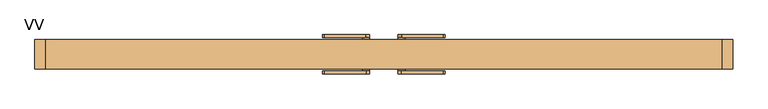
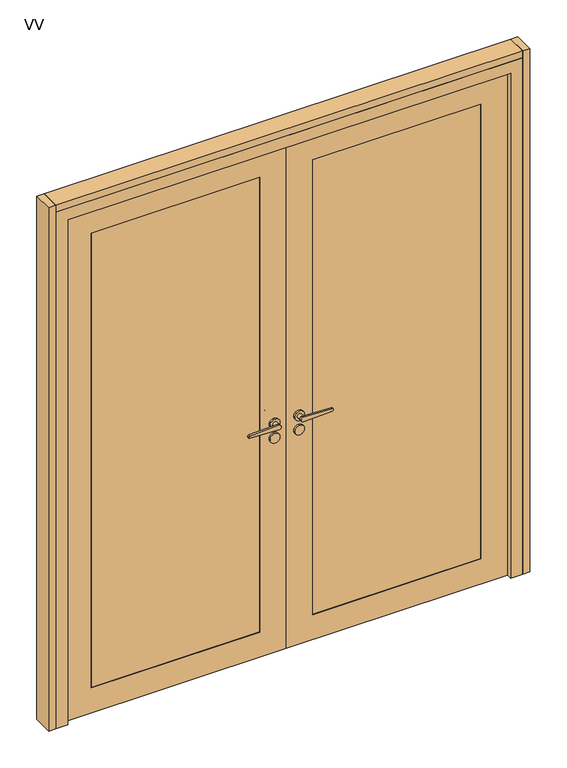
"""IFC4 building model written with IfcOpenShell, lengths in millimetres: door geometry, Mobiliário_Mobiliário de Escritório_Porta Dupla de Giro Vidro Duplo - VV_Marelli : VV."""

from ifc_helpers import new_model, si_unit, point, frame, frame_2d, origin, origin_with_axes, place, context, project, spatial, polyline, circle_curve, trimmed, segment, composite_curve, outline, extrude, faceted_brep, source, transform, mapped, element, save


def vv_b9688fd8(model_context):
    return source(origin(), model_context, "Body", "SolidModel", [
        extrude(outline(polyline([(-1000.0, -42.5), (-1000.0, 42.5), (-970.0, 42.5), (-970.0, -42.5), (-1000.0, -42.5)])), origin_with_axes(), (0.0, 0.0, 1.0), 2300.0),
        extrude(outline(polyline([(1000.0, -42.5), (970.0, -42.5), (970.0, 42.5), (1000.0, 42.5), (1000.0, -42.5)])), origin_with_axes(), (0.0, 0.0, 1.0), 2300.0),
        faceted_brep([(-970.0, 42.5, 2270.0), (970.0, 42.5, 2270.0), (970.0, 42.5, 0.0), (890.0, 42.5, 0.0), (890.0, 42.5, 2190.0), (-890.0, 42.5, 2190.0), (-890.0, 42.5, 0.0), (-970.0, 42.5, 0.0), (-970.0, -42.5, 0.0), (-970.0, -42.5, 2270.0), (-890.0, 21.5, 0.0), (-920.0, 21.5, 0.0), (-920.0, -42.5, 0.0), (970.0, -42.5, 0.0), (920.0, -42.5, 0.0), (920.0, 21.5, 0.0), (890.0, 21.5, 0.0), (-890.0, 21.5, 2190.0), (890.0, 21.5, 2190.0), (970.0, -42.5, 2270.0), (920.0, 21.5, 2220.0), (-920.0, 21.5, 2220.0), (-920.0, -42.5, 2220.0), (920.0, -42.5, 2220.0)], [[[0, 1, 2, 3, 4, 5, 6, 7]], [[0, 7, 8, 9]], [[7, 6, 10, 11, 12, 8]], [[2, 13, 14, 15, 16, 3]], [[6, 5, 17, 10]], [[16, 18, 4, 3]], [[19, 13, 2, 1]], [[18, 16, 15, 20, 21, 11, 10, 17]], [[21, 22, 12, 11]], [[14, 23, 20, 15]], [[23, 14, 13, 19, 9, 8, 12, 22]], [[4, 18, 17, 5]], [[22, 21, 20, 23]], [[19, 1, 0, 9]]]),
        extrude(outline(polyline([(2219.5, 0.25), (0.5, 0.25), (0.5, 919.5), (2219.5, 919.5), (2219.5, 0.25)]), holes=[polyline([(110.5, 809.5), (110.5, 110.25), (2109.5, 110.25), (2109.5, 809.5), (110.5, 809.5)])]), frame((0.0, -21.0, 0.0), z_axis=(0.0, 1.0, 0.0), x_axis=(0.0, 0.0, 1.0)), (0.0, 0.0, 1.0), 42.0),
        extrude(outline(polyline([(809.5, -18.5), (110.25, -18.5), (110.25, -12.5), (809.5, -12.5), (809.5, -18.5)])), frame((0.0, 0.0, 110.5), z_axis=(0.0, 0.0, 1.0), x_axis=(1.0, 0.0, 0.0)), (0.0, 0.0, 1.0), 1999.0),
        extrude(outline(polyline([(809.5, 18.5), (809.5, 12.5), (110.25, 12.5), (110.25, 18.5), (809.5, 18.5)])), frame((0.0, 0.0, 110.5), z_axis=(0.0, 0.0, 1.0), x_axis=(1.0, 0.0, 0.0)), (0.0, 0.0, 1.0), 1999.0),
        extrude(outline(polyline([(2219.5, -0.25), (2219.5, -919.5), (0.5, -919.5), (0.5, -0.25), (2219.5, -0.25)]), holes=[polyline([(110.5, -809.5), (2109.5, -809.5), (2109.5, -110.25), (110.5, -110.25), (110.5, -809.5)])]), frame((0.0, -21.0, 0.0), z_axis=(0.0, 1.0, 0.0), x_axis=(0.0, 0.0, 1.0)), (0.0, 0.0, 1.0), 42.0),
        extrude(outline(polyline([(-809.5, -18.5), (-809.5, -12.5), (-110.25, -12.5), (-110.25, -18.5), (-809.5, -18.5)])), frame((0.0, 0.0, 110.5), z_axis=(0.0, 0.0, 1.0), x_axis=(1.0, 0.0, 0.0)), (0.0, 0.0, 1.0), 1999.0),
        extrude(outline(polyline([(-809.5, 18.5), (-110.25, 18.5), (-110.25, 12.5), (-809.5, 12.5), (-809.5, 18.5)])), frame((0.0, 0.0, 110.5), z_axis=(0.0, 0.0, 1.0), x_axis=(1.0, 0.0, 0.0)), (0.0, 0.0, 1.0), 1999.0),
        extrude(outline(polyline([(970.0, -42.5), (-970.0, -42.5), (-970.0, 42.5), (970.0, 42.5), (970.0, -42.5)])), frame((0.0, 0.0, 2270.0), z_axis=(0.0, 0.0, 1.0), x_axis=(1.0, 0.0, 0.0)), (0.0, 0.0, 1.0), 30.0),
        extrude(outline(composite_curve([segment(trimmed(circle_curve(frame_2d((1010.0, -51.05)), 20.8), [point((1010.0, -71.85))], [point((1010.0, -30.25))], False, "CARTESIAN"), True, "CONTINUOUS"), segment(trimmed(circle_curve(frame_2d((1010.0, -51.05)), 20.8), [point((1010.0, -30.25))], [point((1010.0, -71.85))], False, "CARTESIAN"), True, "CONTINUOUS")], self_intersect=False)), frame((0.0, -29.0, 0.0), z_axis=(0.0, 1.0, 0.0), x_axis=(0.0, 0.0, 1.0)), (0.0, 0.0, 1.0), 8.0),
        extrude(outline(composite_curve([segment(trimmed(circle_curve(frame_2d((947.58, -51.05)), 20.8), [point((947.58, -71.85))], [point((947.58, -30.25))], False, "CARTESIAN"), True, "CONTINUOUS"), segment(trimmed(circle_curve(frame_2d((947.58, -51.05)), 20.8), [point((947.58, -30.25))], [point((947.58, -71.85))], False, "CARTESIAN"), True, "CONTINUOUS")], self_intersect=False)), frame((0.0, -29.0, 0.0), z_axis=(0.0, 1.0, 0.0), x_axis=(0.0, 0.0, 1.0)), (0.0, 0.0, 1.0), 8.0),
        extrude(outline(composite_curve([segment(trimmed(circle_curve(frame_2d((1010.0, -51.05)), 20.8), [point((1010.0, -71.85))], [point((1010.0, -30.25))], False, "CARTESIAN"), True, "CONTINUOUS"), segment(trimmed(circle_curve(frame_2d((1010.0, -51.05)), 20.8), [point((1010.0, -30.25))], [point((1010.0, -71.85))], False, "CARTESIAN"), True, "CONTINUOUS")], self_intersect=False)), frame((0.0, 21.0, 0.0), z_axis=(0.0, 1.0, 0.0), x_axis=(0.0, 0.0, 1.0)), (0.0, 0.0, 1.0), 8.0),
        extrude(outline(composite_curve([segment(trimmed(circle_curve(frame_2d((947.58, -51.05)), 20.8), [point((947.58, -71.85))], [point((947.58, -30.25))], False, "CARTESIAN"), True, "CONTINUOUS"), segment(trimmed(circle_curve(frame_2d((947.58, -51.05)), 20.8), [point((947.58, -30.25))], [point((947.58, -71.85))], False, "CARTESIAN"), True, "CONTINUOUS")], self_intersect=False)), frame((0.0, 21.0, 0.0), z_axis=(0.0, 1.0, 0.0), x_axis=(0.0, 0.0, 1.0)), (0.0, 0.0, 1.0), 8.0),
        extrude(outline(composite_curve([segment(trimmed(circle_curve(frame_2d((1010.0, -51.05)), 10.0), [point((1000.0, -51.05))], [point((1020.0, -51.05))], False, "CARTESIAN"), True, "CONTINUOUS"), segment(polyline([(1020.0, -51.05), (1014.970724, -171.1849324)]), True, "CONTINUOUS"), segment(trimmed(circle_curve(frame_2d((1010.0145906, -171.1849324)), 4.9561334), [point((1014.970724, -171.1849324))], [point((1005.0584573, -171.1849324))], False, "CARTESIAN"), True, "CONTINUOUS"), segment(polyline([(1005.0584573, -171.1849324), (1000.0, -51.05)]), True, "CONTINUOUS")], self_intersect=False)), frame((0.0, -56.0, 0.0), z_axis=(0.0, 1.0, 0.0), x_axis=(0.0, 0.0, 1.0)), (0.0, 0.0, 1.0), 8.0),
        extrude(outline(composite_curve([segment(trimmed(circle_curve(frame_2d((1010.0, -51.05)), 10.0), [point((1010.0, -61.05))], [point((1010.0, -41.05))], False, "CARTESIAN"), True, "CONTINUOUS"), segment(trimmed(circle_curve(frame_2d((1010.0, -51.05)), 10.0), [point((1010.0, -41.05))], [point((1010.0, -61.05))], False, "CARTESIAN"), True, "CONTINUOUS")], self_intersect=False)), frame((0.0, 29.0, 0.0), z_axis=(0.0, 1.0, 0.0), x_axis=(0.0, 0.0, 1.0)), (0.0, 0.0, 1.0), 19.0),
        extrude(outline(composite_curve([segment(trimmed(circle_curve(frame_2d((1010.0, -51.05)), 10.0), [point((1010.0, -61.05))], [point((1010.0, -41.05))], False, "CARTESIAN"), True, "CONTINUOUS"), segment(trimmed(circle_curve(frame_2d((1010.0, -51.05)), 10.0), [point((1010.0, -41.05))], [point((1010.0, -61.05))], False, "CARTESIAN"), True, "CONTINUOUS")], self_intersect=False)), frame((0.0, -48.0, 0.0), z_axis=(0.0, 1.0, 0.0), x_axis=(0.0, 0.0, 1.0)), (0.0, 0.0, 1.0), 19.0),
        extrude(outline(composite_curve([segment(trimmed(circle_curve(frame_2d((1010.0145906, -171.1849324)), 4.9561334), [point((1014.970724, -171.1849324))], [point((1005.0584573, -171.1849324))], False, "CARTESIAN"), True, "CONTINUOUS"), segment(polyline([(1005.0584573, -171.1849324), (1000.0, -51.05)]), True, "CONTINUOUS"), segment(trimmed(circle_curve(frame_2d((1010.0, -51.05)), 10.0), [point((1000.0, -51.05))], [point((1020.0, -51.05))], False, "CARTESIAN"), True, "CONTINUOUS"), segment(polyline([(1020.0, -51.05), (1014.970724, -171.1849324)]), True, "CONTINUOUS")], self_intersect=False)), frame((0.0, 48.0, 0.0), z_axis=(0.0, 1.0, 0.0), x_axis=(0.0, 0.0, 1.0)), (0.0, 0.0, 1.0), 8.0),
        extrude(outline(composite_curve([segment(trimmed(circle_curve(frame_2d((1010.0, 51.05)), 20.8), [point((1010.0, 71.85))], [point((1010.0, 30.25))], False, "CARTESIAN"), True, "CONTINUOUS"), segment(trimmed(circle_curve(frame_2d((1010.0, 51.05)), 20.8), [point((1010.0, 30.25))], [point((1010.0, 71.85))], False, "CARTESIAN"), True, "CONTINUOUS")], self_intersect=False)), frame((0.0, -29.0, 0.0), z_axis=(0.0, 1.0, 0.0), x_axis=(0.0, 0.0, 1.0)), (0.0, 0.0, 1.0), 8.0),
        extrude(outline(composite_curve([segment(trimmed(circle_curve(frame_2d((947.58, 51.05)), 20.8), [point((947.58, 71.85))], [point((947.58, 30.25))], False, "CARTESIAN"), True, "CONTINUOUS"), segment(trimmed(circle_curve(frame_2d((947.58, 51.05)), 20.8), [point((947.58, 30.25))], [point((947.58, 71.85))], False, "CARTESIAN"), True, "CONTINUOUS")], self_intersect=False)), frame((0.0, -29.0, 0.0), z_axis=(0.0, 1.0, 0.0), x_axis=(0.0, 0.0, 1.0)), (0.0, 0.0, 1.0), 8.0),
        extrude(outline(composite_curve([segment(trimmed(circle_curve(frame_2d((1010.0, 51.05)), 20.8), [point((1010.0, 71.85))], [point((1010.0, 30.25))], False, "CARTESIAN"), True, "CONTINUOUS"), segment(trimmed(circle_curve(frame_2d((1010.0, 51.05)), 20.8), [point((1010.0, 30.25))], [point((1010.0, 71.85))], False, "CARTESIAN"), True, "CONTINUOUS")], self_intersect=False)), frame((0.0, 21.0, 0.0), z_axis=(0.0, 1.0, 0.0), x_axis=(0.0, 0.0, 1.0)), (0.0, 0.0, 1.0), 8.0),
        extrude(outline(composite_curve([segment(trimmed(circle_curve(frame_2d((947.58, 51.05)), 20.8), [point((947.58, 71.85))], [point((947.58, 30.25))], False, "CARTESIAN"), True, "CONTINUOUS"), segment(trimmed(circle_curve(frame_2d((947.58, 51.05)), 20.8), [point((947.58, 30.25))], [point((947.58, 71.85))], False, "CARTESIAN"), True, "CONTINUOUS")], self_intersect=False)), frame((0.0, 21.0, 0.0), z_axis=(0.0, 1.0, 0.0), x_axis=(0.0, 0.0, 1.0)), (0.0, 0.0, 1.0), 8.0),
        extrude(outline(composite_curve([segment(polyline([(1000.0, 51.05), (1005.0584573, 171.1849324)]), True, "CONTINUOUS"), segment(trimmed(circle_curve(frame_2d((1010.0145906, 171.1849324)), 4.9561334), [point((1005.0584573, 171.1849324))], [point((1014.970724, 171.1849324))], False, "CARTESIAN"), True, "CONTINUOUS"), segment(polyline([(1014.970724, 171.1849324), (1020.0, 51.05)]), True, "CONTINUOUS"), segment(trimmed(circle_curve(frame_2d((1010.0, 51.05)), 10.0), [point((1020.0, 51.05))], [point((1000.0, 51.05))], False, "CARTESIAN"), True, "CONTINUOUS")], self_intersect=False)), frame((0.0, -56.0, 0.0), z_axis=(0.0, 1.0, 0.0), x_axis=(0.0, 0.0, 1.0)), (0.0, 0.0, 1.0), 8.0),
        extrude(outline(composite_curve([segment(trimmed(circle_curve(frame_2d((1010.0, 51.05)), 10.0), [point((1010.0, 61.05))], [point((1010.0, 41.05))], False, "CARTESIAN"), True, "CONTINUOUS"), segment(trimmed(circle_curve(frame_2d((1010.0, 51.05)), 10.0), [point((1010.0, 41.05))], [point((1010.0, 61.05))], False, "CARTESIAN"), True, "CONTINUOUS")], self_intersect=False)), frame((0.0, 29.0, 0.0), z_axis=(0.0, 1.0, 0.0), x_axis=(0.0, 0.0, 1.0)), (0.0, 0.0, 1.0), 19.0),
        extrude(outline(composite_curve([segment(trimmed(circle_curve(frame_2d((1010.0, 51.05)), 10.0), [point((1010.0, 61.05))], [point((1010.0, 41.05))], False, "CARTESIAN"), True, "CONTINUOUS"), segment(trimmed(circle_curve(frame_2d((1010.0, 51.05)), 10.0), [point((1010.0, 41.05))], [point((1010.0, 61.05))], False, "CARTESIAN"), True, "CONTINUOUS")], self_intersect=False)), frame((0.0, -48.0, 0.0), z_axis=(0.0, 1.0, 0.0), x_axis=(0.0, 0.0, 1.0)), (0.0, 0.0, 1.0), 19.0),
        extrude(outline(composite_curve([segment(polyline([(1014.970724, 171.1849324), (1020.0, 51.05)]), True, "CONTINUOUS"), segment(trimmed(circle_curve(frame_2d((1010.0, 51.05)), 10.0), [point((1020.0, 51.05))], [point((1000.0, 51.05))], False, "CARTESIAN"), True, "CONTINUOUS"), segment(polyline([(1000.0, 51.05), (1005.0584573, 171.1849324)]), True, "CONTINUOUS"), segment(trimmed(circle_curve(frame_2d((1010.0145906, 171.1849324)), 4.9561334), [point((1005.0584573, 171.1849324))], [point((1014.970724, 171.1849324))], False, "CARTESIAN"), True, "CONTINUOUS")], self_intersect=False)), frame((0.0, 48.0, 0.0), z_axis=(0.0, 1.0, 0.0), x_axis=(0.0, 0.0, 1.0)), (0.0, 0.0, 1.0), 8.0),
    ])


if __name__ == "__main__":
    model = new_model("IFC4")
    model_context = context("Model", 3, world=origin())
    ifc_project = project(units=[si_unit("LENGTHUNIT", "METRE", prefix="MILLI")], contexts=[model_context])
    site = spatial("IfcSite", under=ifc_project)
    building = spatial("IfcBuilding", under=site)
    placement = place(None, origin())
    vv_shape = vv_b9688fd8(model_context)
    element("IfcDoor", 1, ObjectType="Mobiliário_Mobiliário de Escritório_Porta Dupla de Giro Vidro Duplo - VV_Marelli : VV", at=placement, inside=building, context=model_context, shape_type="MappedRepresentation", body=[
        mapped(vv_shape, transform((0.0, 0.0, 0.0), x_axis=(1.0, 0.0, 0.0), y_axis=(0.0, 1.0, 0.0), z_axis=(0.0, 0.0, 1.0))),
    ])
    save(model, "model.ifc")
